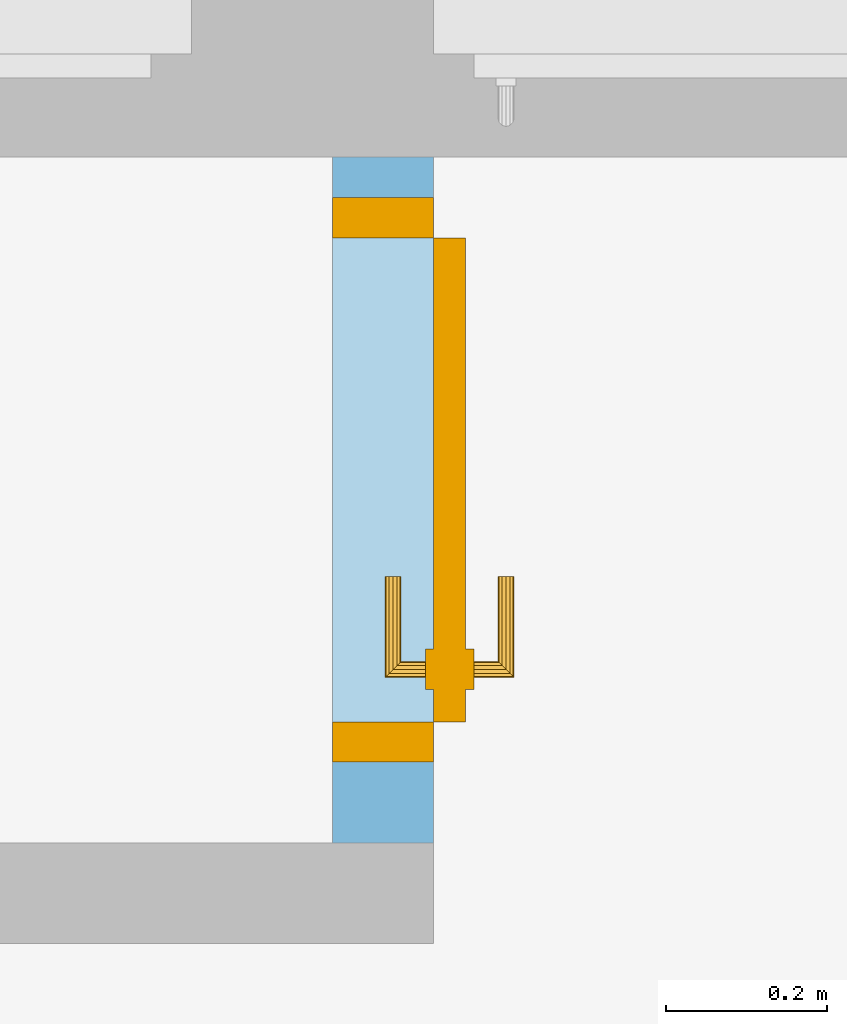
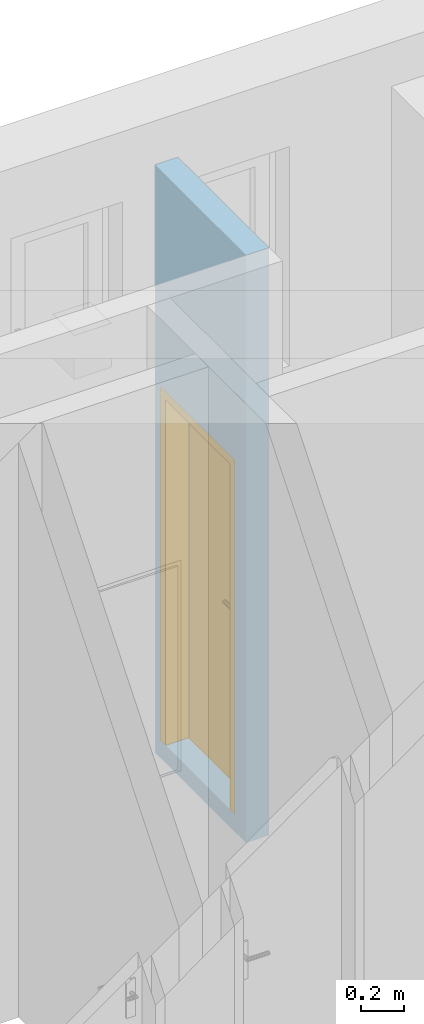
# One storey, part 34 of 50: 1 door, 1 opening, plus 1 element that does not belong to this part.
"""IFC4 building model written with IfcOpenShell, lengths in metres."""

from ifc_helpers import new_model, entity, si_unit, converted_unit, derived_unit, frame, frame_2d, origin, origin_with_axes, place, context, subcontext, project, spatial, polyline, rectangle, outline, extrude, closed_shell, open_shell, surface_model, source, transform, mapped, material, layer, layer_set, layer_usage, type_object, element, fill, save


model = new_model("IFC4")

# Units and contexts
model_context = context("Model", 3, precision=1e-05, world=origin())
body_context = subcontext(model_context, "Body", "Model", "MODEL_VIEW")
ifc_project = project(units=[si_unit("LENGTHUNIT", "METRE"), si_unit("AREAUNIT", "SQUARE_METRE"), si_unit("VOLUMEUNIT", "CUBIC_METRE"), si_unit("MASSUNIT", "GRAM", prefix="KILO"), converted_unit("PLANEANGLEUNIT", "DEGREE", entity("IfcPlaneAngleMeasure", 0.0174532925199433), si_unit("PLANEANGLEUNIT", "RADIAN"), dimensions=[0, 0, 0, 0, 0, 0, 0]), derived_unit("THERMALTRANSMITTANCEUNIT", [(si_unit("POWERUNIT", "WATT"), 1), (si_unit("THERMODYNAMICTEMPERATUREUNIT", "KELVIN"), -1), (si_unit("LENGTHUNIT", "METRE"), -2)]), derived_unit("VOLUMETRICFLOWRATEUNIT", [(si_unit("LENGTHUNIT", "METRE"), 3), (converted_unit("TIMEUNIT", "hour", entity("IfcTimeMeasure", 3600.0), si_unit("TIMEUNIT", "SECOND"), dimensions=[0, 0, 1, 0, 0, 0, 0]), -1), (si_unit("LENGTHUNIT", "METRE"), -1)])], contexts=[model_context])

# Site, building, storey
site_placement = place(None, origin())
site = spatial("IfcSite", under=ifc_project, at=site_placement, Name="3. ASŘ", CompositionType="ELEMENT")
building_placement = place(site_placement, origin())
building = spatial("IfcBuilding", under=site, at=building_placement, Name="Pavilon C", CompositionType="ELEMENT")
storey_placement = place(building_placement, frame((0.0, 0.0, 3.6)))
storey = spatial("IfcBuildingStorey", under=building, at=storey_placement, Name="Půdorys 2.NP", CompositionType="ELEMENT", Elevation=3.6)

# Wall, opening, door
ifc_material = material(Name="ZDIVO Z CDm")
ifc_layer = layer(ifc_material, 0.125)
ifc_layer_set = layer_set([ifc_layer])
ifc_layer_usage = layer_usage(ifc_layer_set, "AXIS2", "POSITIVE", 0.0)
wall_placement = place(storey_placement, frame((4.65, 14.08, -0.1), z_axis=(0.0, 0.0, 1.0), x_axis=(0.0, 1.0, 0.0)))
wall = element("IfcWall", 1, at=wall_placement, inside=storey, material=ifc_layer_usage, Name="ZDIVO Z CDm", context=body_context, shape_type="SweptSolid", body=[
    extrude(rectangle(XDim=0.85, YDim=0.125, at=frame_2d((0.425, 0.0625), x_axis=(1.0, 0.0))), origin_with_axes(), (0.0, 0.0, 1.0), 3.35),
])
opening_placement = place(wall_placement, frame((0.799999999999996, 0.125, 0.1), z_axis=(0.0, -1.0, 0.0), x_axis=(0.0, 0.0, 1.0)))
opening = element("IfcOpeningElement", 2, at=opening_placement, cuts=wall, Name="Dveřní otvor", ObjectType="Opening", context=body_context, shape_type="SweptSolid", body=[
    extrude(outline(polyline([(0.0, 0.7), (2.02, 0.7), (2.02, 0.0), (0.0, 0.0), (0.0, 0.7)])), origin_with_axes(), (0.0, 0.0, 1.0), 0.125),
])
door_type = type_object("IfcDoorType", Name="D101", OperationType="NOTDEFINED", ParameterTakesPrecedence=False, PredefinedType="DOOR")
shared_shape = source(origin_with_axes(), body_context, "Body", "SurfaceModel", [
    surface_model("IfcShellBasedSurfaceModel", [(0.0, 0.125, 2.02), (0.0, 0.125, -7.65404249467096e-18), (0.05, 0.125, -7.65404249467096e-18), (0.05, 0.125, 2.02), (0.0, 0.0, 7.65404249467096e-18), (0.0, 2.41584530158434e-16, 2.02), (0.05, 2.41584530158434e-16, 2.02), (0.05, 0.0, 7.65404249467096e-18)], [closed_shell([[[0, 1, 2, 3]], [[4, 5, 6, 7]], [[1, 0, 5, 4]], [[2, 1, 4, 7]], [[3, 2, 7, 6]], [[0, 3, 6, 5]]], orient=[[False], [False], [False], [False], [False], [False]])]),
    surface_model("IfcShellBasedSurfaceModel", [(0.65, 0.125, 2.02), (0.65, 0.125, -7.65404249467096e-18), (0.7, 0.125, -7.65404249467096e-18), (0.7, 0.125, 2.02), (0.65, 0.0, 7.65404249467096e-18), (0.65, 2.41584530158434e-16, 2.02), (0.7, 2.41584530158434e-16, 2.02), (0.7, 0.0, 7.65404249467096e-18)], [closed_shell([[[0, 1, 2, 3]], [[4, 5, 6, 7]], [[1, 0, 5, 4]], [[2, 1, 4, 7]], [[3, 2, 7, 6]], [[0, 3, 6, 5]]], orient=[[False], [False], [False], [False], [False], [False]])]),
    surface_model("IfcShellBasedSurfaceModel", [(0.05, 0.125, 2.02), (0.05, 0.125, 1.97), (0.65, 0.125, 1.97), (0.65, 0.125, 2.02), (0.05, 2.41584530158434e-16, 1.97), (0.05, 2.41584530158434e-16, 2.02), (0.65, 2.41584530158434e-16, 2.02), (0.65, 2.41584530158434e-16, 1.97)], [closed_shell([[[0, 1, 2, 3]], [[4, 5, 6, 7]], [[1, 0, 5, 4]], [[2, 1, 4, 7]], [[3, 2, 7, 6]], [[0, 3, 6, 5]]], orient=[[False], [False], [False], [False], [False], [False]])]),
    surface_model("IfcShellBasedSurfaceModel", [(0.05, 0.165, 1.97), (0.05, 0.165, -1.25526296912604e-17), (0.65, 0.165, -1.25526296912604e-17), (0.65, 0.165, 1.97), (0.05, 0.125, -7.65404249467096e-18), (0.05, 0.125, 1.97), (0.65, 0.125, 1.97), (0.65, 0.125, -7.65404249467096e-18)], [closed_shell([[[0, 1, 2, 3]], [[4, 5, 6, 7]], [[1, 0, 5, 4]], [[2, 1, 4, 7]], [[3, 2, 7, 6]], [[0, 3, 6, 5]]], orient=[[False], [False], [False], [False], [False], [False]])]),
    surface_model("IfcShellBasedSurfaceModel", [(0.56, 0.125, 1.125), (0.56, 0.125, 0.91), (0.61, 0.125, 0.91), (0.61, 0.125, 1.125), (0.56, 0.115, 0.91), (0.56, 0.115, 1.125), (0.61, 0.115, 1.125), (0.61, 0.115, 0.91)], [closed_shell([[[0, 1, 2, 3]], [[4, 5, 6, 7]], [[1, 0, 5, 4]], [[2, 1, 4, 7]], [[3, 2, 7, 6]], [[0, 3, 6, 5]]], orient=[[False], [False], [False], [False], [False], [False]])]),
    surface_model("IfcShellBasedSurfaceModel", [(0.585, 0.115, 1.06), (0.58, 0.115, 1.05866025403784), (0.576339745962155, 0.115, 1.055), (0.575, 0.115, 1.05), (0.576339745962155, 0.115, 1.045), (0.58, 0.115, 1.04133974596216), (0.585, 0.115, 1.04), (0.59, 0.115, 1.04133974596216), (0.593660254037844, 0.115, 1.045), (0.595, 0.115, 1.05), (0.593660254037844, 0.115, 1.055), (0.59, 0.115, 1.05866025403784), (0.59, 0.0700000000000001, 1.05866025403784), (0.585, 0.0750000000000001, 1.06), (0.593660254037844, 0.0663397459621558, 1.055), (0.595, 0.0650000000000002, 1.05), (0.593660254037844, 0.0663397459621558, 1.045), (0.59, 0.0700000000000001, 1.04133974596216), (0.585, 0.0750000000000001, 1.04), (0.58, 0.0800000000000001, 1.04133974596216), (0.576339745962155, 0.0836602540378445, 1.045), (0.575, 0.0850000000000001, 1.05), (0.576339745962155, 0.0836602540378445, 1.055), (0.58, 0.0800000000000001, 1.05866025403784), (0.47, 0.0700000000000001, 1.05866025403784), (0.47, 0.0750000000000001, 1.06), (0.47, 0.0663397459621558, 1.055), (0.47, 0.0650000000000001, 1.05), (0.47, 0.0663397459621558, 1.045), (0.47, 0.0700000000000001, 1.04133974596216), (0.47, 0.0750000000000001, 1.04), (0.47, 0.0800000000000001, 1.04133974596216), (0.47, 0.0836602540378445, 1.045), (0.47, 0.0850000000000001, 1.05), (0.47, 0.0836602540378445, 1.055), (0.47, 0.0800000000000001, 1.05866025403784)], [open_shell([[[0, 1, 2, 3, 4, 5, 6, 7, 8, 9, 10, 11]], [[0, 11, 12, 13]], [[11, 10, 14, 12]], [[10, 9, 15, 14]], [[9, 8, 16, 15]], [[8, 7, 17, 16]], [[7, 6, 18, 17]], [[6, 5, 19, 18]], [[5, 4, 20, 19]], [[4, 3, 21, 20]], [[3, 2, 22, 21]], [[2, 1, 23, 22]], [[1, 0, 13, 23]], [[13, 12, 24, 25]], [[12, 14, 26, 24]], [[14, 15, 27, 26]], [[15, 16, 28, 27]], [[16, 17, 29, 28]], [[17, 18, 30, 29]], [[18, 19, 31, 30]], [[19, 20, 32, 31]], [[20, 21, 33, 32]], [[21, 22, 34, 33]], [[22, 23, 35, 34]], [[23, 13, 25, 35]]], orient=[[False], [False], [False], [False], [False], [False], [False], [False], [False], [False], [False], [False], [False], [False], [False], [False], [False], [False], [False], [False], [False], [False], [False], [False], [False]])]),
    surface_model("IfcShellBasedSurfaceModel", [(0.56, 0.165, 1.125), (0.61, 0.165, 1.125), (0.61, 0.165, 0.91), (0.56, 0.165, 0.91), (0.56, 0.175, 0.91), (0.61, 0.175, 0.91), (0.61, 0.175, 1.125), (0.56, 0.175, 1.125)], [closed_shell([[[0, 1, 2, 3]], [[4, 5, 6, 7]], [[3, 4, 7, 0]], [[2, 5, 4, 3]], [[1, 6, 5, 2]], [[0, 7, 6, 1]]], orient=[[False], [False], [False], [False], [False], [False]])]),
    surface_model("IfcShellBasedSurfaceModel", [(0.585, 0.175, 1.06), (0.59, 0.175, 1.05866025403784), (0.593660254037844, 0.175, 1.055), (0.595, 0.175, 1.05), (0.593660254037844, 0.175, 1.045), (0.59, 0.175, 1.04133974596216), (0.585, 0.175, 1.04), (0.58, 0.175, 1.04133974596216), (0.576339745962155, 0.175, 1.045), (0.575, 0.175, 1.05), (0.576339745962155, 0.175, 1.055), (0.58, 0.175, 1.05866025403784), (0.585, 0.215, 1.06), (0.59, 0.22, 1.05866025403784), (0.593660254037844, 0.223660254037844, 1.055), (0.595, 0.225, 1.05), (0.593660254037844, 0.223660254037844, 1.045), (0.59, 0.22, 1.04133974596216), (0.585, 0.215, 1.04), (0.58, 0.21, 1.04133974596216), (0.576339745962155, 0.206339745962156, 1.045), (0.575, 0.205, 1.05), (0.576339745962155, 0.206339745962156, 1.055), (0.58, 0.21, 1.05866025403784), (0.47, 0.215, 1.06), (0.47, 0.22, 1.05866025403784), (0.47, 0.223660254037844, 1.055), (0.47, 0.225, 1.05), (0.47, 0.223660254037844, 1.045), (0.47, 0.22, 1.04133974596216), (0.47, 0.215, 1.04), (0.47, 0.21, 1.04133974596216), (0.47, 0.206339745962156, 1.045), (0.47, 0.205, 1.05), (0.47, 0.206339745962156, 1.055), (0.47, 0.21, 1.05866025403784)], [open_shell([[[0, 1, 2, 3, 4, 5, 6, 7, 8, 9, 10, 11]], [[0, 12, 13, 1]], [[1, 13, 14, 2]], [[2, 14, 15, 3]], [[3, 15, 16, 4]], [[4, 16, 17, 5]], [[5, 17, 18, 6]], [[6, 18, 19, 7]], [[7, 19, 20, 8]], [[8, 20, 21, 9]], [[9, 21, 22, 10]], [[10, 22, 23, 11]], [[11, 23, 12, 0]], [[12, 24, 25, 13]], [[13, 25, 26, 14]], [[14, 26, 27, 15]], [[15, 27, 28, 16]], [[16, 28, 29, 17]], [[17, 29, 30, 18]], [[18, 30, 31, 19]], [[19, 31, 32, 20]], [[20, 32, 33, 21]], [[21, 33, 34, 22]], [[22, 34, 35, 23]], [[23, 35, 24, 12]]], orient=[[False], [False], [False], [False], [False], [False], [False], [False], [False], [False], [False], [False], [False], [False], [False], [False], [False], [False], [False], [False], [False], [False], [False], [False], [False]])]),
])
door_placement = place(opening_placement, frame((0.0, 3.63797880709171e-15, -1.81898940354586e-15), z_axis=(1.0, 0.0, 0.0), x_axis=(0.0, 1.0, 1.22464679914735e-16)))
door = element("IfcDoor", 3, at=door_placement, inside=storey, type_object=door_type, Name="D101", OverallHeight=2.02, OverallWidth=0.7, context=body_context, shape_type="MappedRepresentation", body=[
    mapped(shared_shape, transform((0.0, 0.0, 0.0), x_axis=(1.0, 0.0, 0.0), y_axis=(0.0, 1.0, 0.0), z_axis=(0.0, 0.0, 1.0), scale=1.0)),
])
fill(opening, door)

save(model, "model.ifc")
